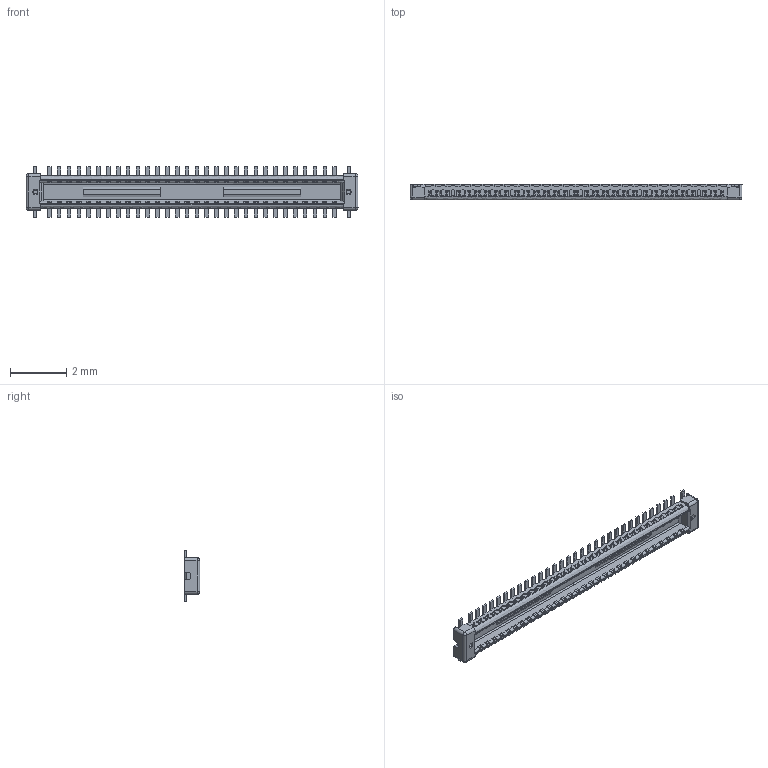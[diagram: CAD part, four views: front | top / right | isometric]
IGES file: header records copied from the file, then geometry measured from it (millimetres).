
Start section: SolidWorks IGES file using analytic representation for surfaces
Global section: file name: C:\3dwork\ota\モデル用20708＆20709 60p追加改定 170502\20708-060E-01C PLUG ASS'Y IGES.IGS; native system: SolidWorks 2014; preprocessor: SolidWorks 2014; author: 3DCAD; date: 170502.141423; units: millimetre
Bounding box: 11.81 x 0.56 x 1.8 mm (x, y, z)
Surface area: 61.2 mm2 (no closed solid volume)
Topology: 0 solids, 0 shells, 2512 faces, 13916 edges, 13912 vertices
Faces by surface type: bspline 2250, revolution 262
